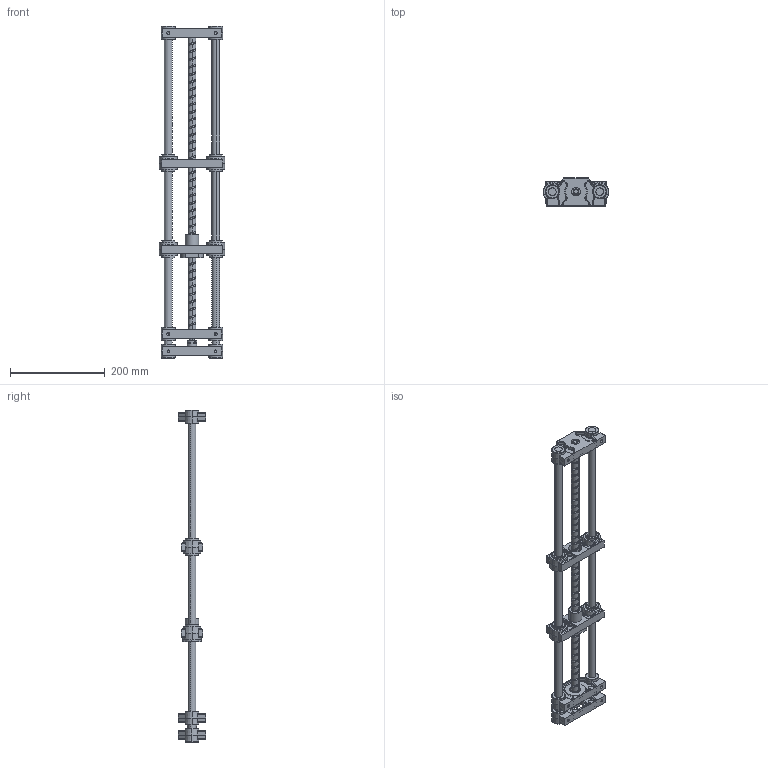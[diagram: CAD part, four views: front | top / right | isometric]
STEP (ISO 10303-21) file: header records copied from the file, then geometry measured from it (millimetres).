
FILE_DESCRIPTION (( 'STEP AP203' ), '1' );
FILE_NAME ('MESA MAF 1616_670_HT23.STEP', '2016-08-01T16:06:23', ( '' ), ( '' ), 'SwSTEP 2.0', 'SolidWorks 2016', '' );
FILE_SCHEMA (( 'CONFIG_CONTROL_DESIGN' ));
Length unit declared in the file: millimetre
Products named in the file (10): Castanha SFU 01605-4; KTM-MER-06.00-00; KTM-MER-02.00-00; KTM-MER-03.00-00; KTM-MER-01.00-00; Linear Ball LM16UU; MESA MAF 1616_670_HT23; KTM-MER-04.00-00; ROLAMENTO 609 - ZZ   9X24X7; KTM-MER-05.00-00
Assembly tree (16 placements, depth 2):
  MESA MAF 1616_670_HT23
    KTM-MER-01.00-00  x2
    KTM-MER-03.00-00
    KTM-MER-02.00-00  x2
    KTM-MER-04.00-00
    Castanha SFU 01605-4
    KTM-MER-05.00-00  x2
    Linear Ball LM16UU  x4
    ROLAMENTO 609 - ZZ   9X24X7  x2
    KTM-MER-06.00-00
Bounding box: 138 x 58 x 700 mm (x, y, z)
Volume: 871600.4 mm3; surface area: 282474.5 mm2
Topology: 16 solids, 16 shells, 1968 faces, 4617 edges, 2646 vertices
Faces by surface type: cylinder 715, torus 414, plane 345, bspline 201, sphere 152, cone 141
Entity records: 81046 total; most frequent: CARTESIAN_POINT 52249, DIRECTION 6076, ORIENTED_EDGE 5776, EDGE_CURVE 2888, AXIS2_PLACEMENT_3D 2558, VERTEX_POINT 1704, CIRCLE 1428, EDGE_LOOP 1306
